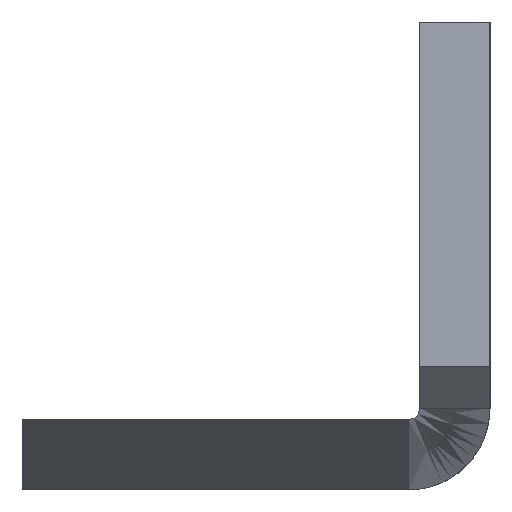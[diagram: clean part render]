
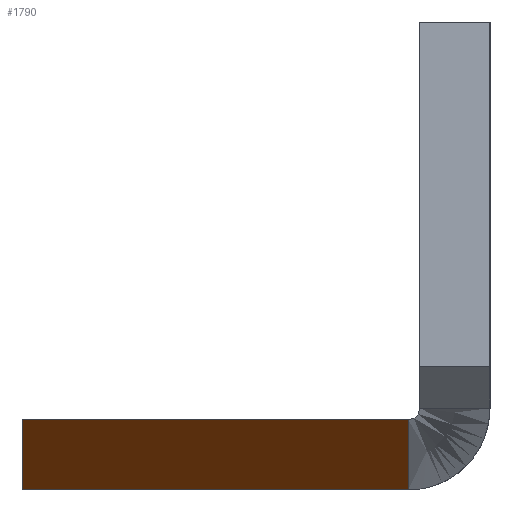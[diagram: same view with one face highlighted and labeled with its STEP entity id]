
A CAD part, left-side view. The second image highlights one B-rep face of the part: STEP entity #1790.
In plain terms, the highlighted planar face has unit normal (-0.447, 0.894, 0).
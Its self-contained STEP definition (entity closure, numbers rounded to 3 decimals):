
#48 = ORIENTED_EDGE ( 'NONE', *, *, #905, .T. ) ;
#87 = CARTESIAN_POINT ( 'NONE',  ( -193., 0.5, -17. ) ) ;
#106 = CARTESIAN_POINT ( 'NONE',  ( -193., 0.5, -17. ) ) ;
#183 = LINE ( 'NONE', #2741, #2192 ) ;
#205 = LINE ( 'NONE', #1737, #1587 ) ;
#215 = CARTESIAN_POINT ( 'NONE',  ( -200., -3., -20. ) ) ;
#424 = CARTESIAN_POINT ( 'NONE',  ( -160., 17., -17. ) ) ;
#444 = AXIS2_PLACEMENT_3D ( 'NONE', #215, #1926, #2553 ) ;
#482 = CARTESIAN_POINT ( 'NONE',  ( -193., 0.5, -20. ) ) ;
#546 = EDGE_LOOP ( 'NONE', ( #1473, #1761, #2538, #48 ) ) ;
#650 = DIRECTION ( 'NONE',  ( -0.894, -0.447, 0. ) ) ;
#710 = CARTESIAN_POINT ( 'NONE',  ( -193., 0.5, -20. ) ) ;
#801 = CARTESIAN_POINT ( 'NONE',  ( -160., 17., -20. ) ) ;
#806 = B_SPLINE_CURVE_WITH_KNOTS ( 'NONE', 1,
 ( #87, #710 ),
 .UNSPECIFIED., .F., .F.,
 ( 2, 2 ),
 ( 0., 1. ),
 .UNSPECIFIED. ) ;
#905 = EDGE_CURVE ( 'NONE', #1307, #1154, #183, .T. ) ;
#955 = CARTESIAN_POINT ( 'NONE',  ( -160., 17., -20. ) ) ;
#1028 = DIRECTION ( 'NONE',  ( -0.894, -0.447, 0. ) ) ;
#1154 = VERTEX_POINT ( 'NONE', #482 ) ;
#1229 = VERTEX_POINT ( 'NONE', #106 ) ;
#1307 = VERTEX_POINT ( 'NONE', #801 ) ;
#1356 = DIRECTION ( 'NONE',  ( 0., 0., 1. ) ) ;
#1434 = EDGE_CURVE ( 'NONE', #1229, #1154, #806, .T. ) ;
#1473 = ORIENTED_EDGE ( 'NONE', *, *, #1434, .F. ) ;
#1569 = LINE ( 'NONE', #955, #2260 ) ;
#1587 = VECTOR ( 'NONE', #650, 1000. ) ;
#1694 = FACE_OUTER_BOUND ( 'NONE', #546, .T. ) ;
#1737 = CARTESIAN_POINT ( 'NONE',  ( -200., -3., -17. ) ) ;
#1761 = ORIENTED_EDGE ( 'NONE', *, *, #2430, .F. ) ;
#1790 = ADVANCED_FACE ( 'NONE', ( #1694 ), #2339, .T. ) ;
#1796 = VERTEX_POINT ( 'NONE', #424 ) ;
#1926 = DIRECTION ( 'NONE',  ( -0.447, 0.894, 0. ) ) ;
#2192 = VECTOR ( 'NONE', #1028, 1000. ) ;
#2260 = VECTOR ( 'NONE', #1356, 1000. ) ;
#2339 = PLANE ( 'NONE',  #444 ) ;
#2430 = EDGE_CURVE ( 'NONE', #1796, #1229, #205, .T. ) ;
#2504 = EDGE_CURVE ( 'NONE', #1307, #1796, #1569, .T. ) ;
#2538 = ORIENTED_EDGE ( 'NONE', *, *, #2504, .F. ) ;
#2553 = DIRECTION ( 'NONE',  ( -0.894, -0.447, 0. ) ) ;
#2741 = CARTESIAN_POINT ( 'NONE',  ( -200., -3., -20. ) ) ;
